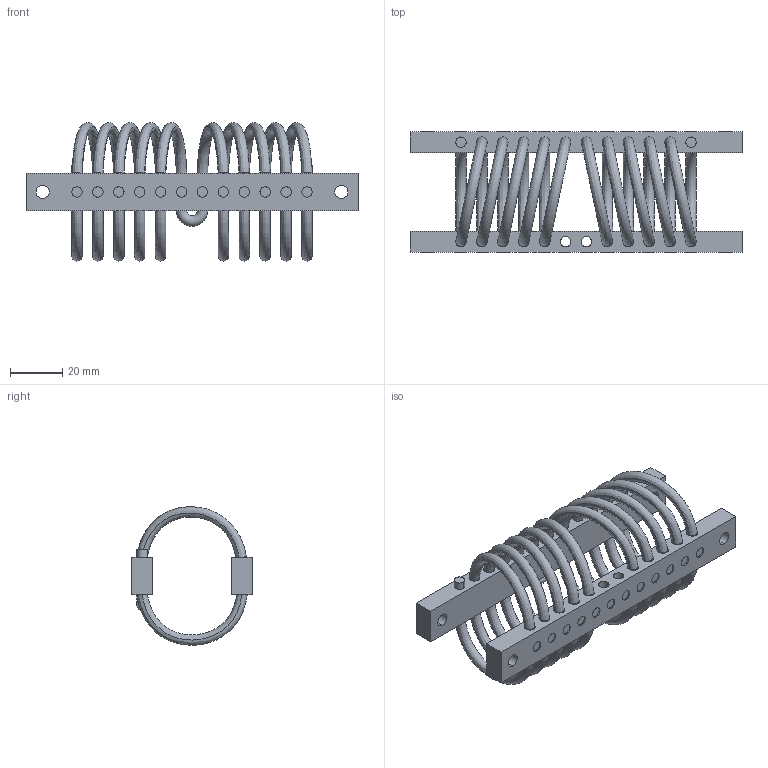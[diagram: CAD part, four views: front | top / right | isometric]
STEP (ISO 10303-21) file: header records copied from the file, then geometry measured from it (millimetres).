
FILE_DESCRIPTION (( 'STEP AP214' ), '1' );
FILE_NAME ('WR5-800-10DM.STEP', '2018-12-07T09:53:11', ( 'user' ), ( 'Microsoft' ), 'SwSTEP 2.0', 'SolidWorks 2016', '' );
FILE_SCHEMA (( 'AUTOMOTIVE_DESIGN' ));
Length unit declared in the file: millimetre
Products named in the file (1): WR5-800-10DM
Bounding box: 127 x 46 x 52.96 mm (x, y, z)
Volume: 42094.1 mm3; surface area: 34991.1 mm2
Topology: 25 solids, 25 shells, 316 faces, 702 edges, 460 vertices
Faces by surface type: cylinder 192, plane 82, bspline 40, torus 2
Entity records: 22650 total; most frequent: CARTESIAN_POINT 15379, ORIENTED_EDGE 1404, DIRECTION 1382, EDGE_CURVE 702, AXIS2_PLACEMENT_3D 583, VERTEX_POINT 460, EDGE_LOOP 396, ADVANCED_FACE 316
